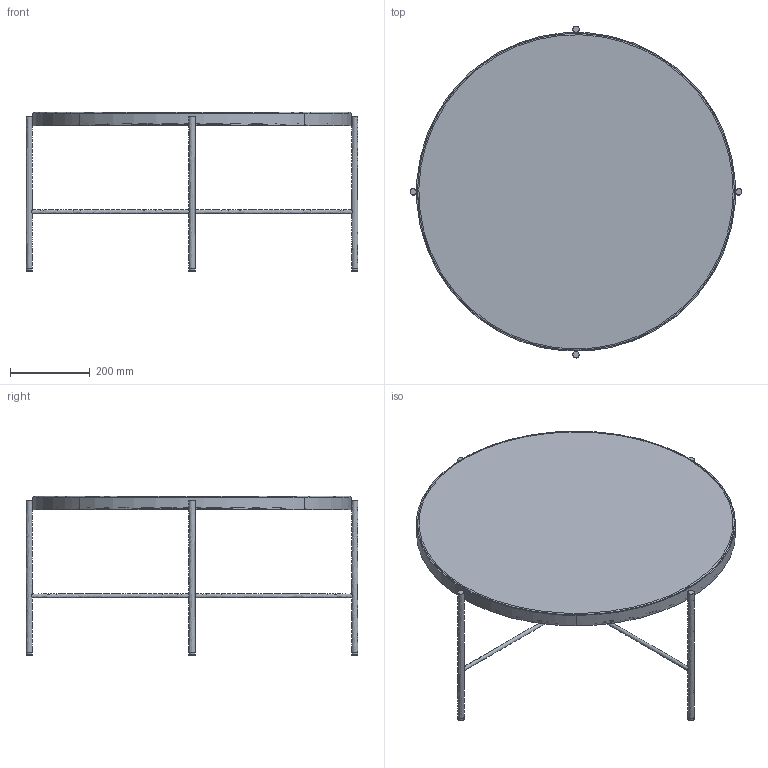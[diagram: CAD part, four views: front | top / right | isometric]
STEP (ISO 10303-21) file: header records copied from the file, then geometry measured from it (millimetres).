
FILE_DESCRIPTION(/* description */ (''),/* implementation_level */ '2;1');
FILE_NAME(/* name */ 'kinoshita_abord_at113-m',/* time_stamp */ '2025-08-27T18:56:28+09:00',/* author */ (''),/* organization */ (''),/* preprocessor_version */ 'ST-DEVELOPER v16.5',/* originating_system */ '',/* authorisation */ '');
FILE_SCHEMA (('AUTOMOTIVE_DESIGN'));
Length unit declared in the file: millimetre
Products named in the file (1): Document
Bounding box: 831.8 x 831.8 x 400 mm (x, y, z)
Volume: 15940178 mm3; surface area: 1635669.7 mm2
Topology: 3 solids, 3 shells, 89 faces, 208 edges, 129 vertices
Faces by surface type: bspline 61, plane 28
Entity records: 3986 total; most frequent: CARTESIAN_POINT 2718, ORIENTED_EDGE 416, EDGE_CURVE 208, VERTEX_POINT 129, EDGE_LOOP 119, ADVANCED_FACE 89, FACE_OUTER_BOUND 89, B_SPLINE_CURVE_WITH_KNOTS 69
